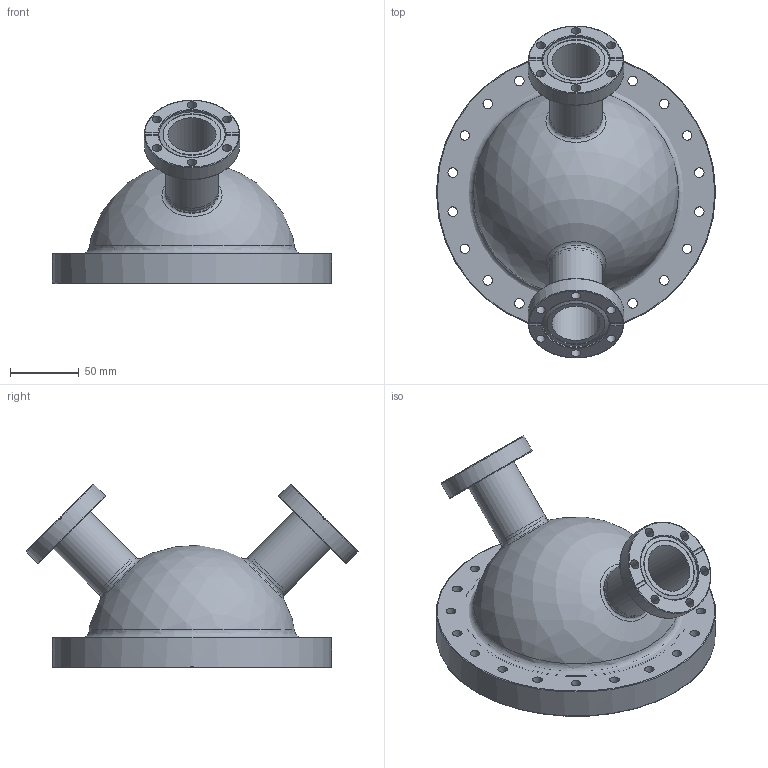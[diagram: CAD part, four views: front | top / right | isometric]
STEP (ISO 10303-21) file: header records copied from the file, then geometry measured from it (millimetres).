
FILE_DESCRIPTION(/* description */ ('STEP AP203'),/* implementation_level */ '2;1');
FILE_NAME(/* name */ 'Top Part Fusor Chamber.step',/* time_stamp */ '2024-11-04T15:29:27-06:00',/* author */ (''),/* organization */ (''),/* preprocessor_version */ 'ST-DEVELOPER v20',/* originating_system */ 'Autodesk Translation Framework v13.20.0.188',/* authorisation */ '');
FILE_SCHEMA (('AUTOMOTIVE_DESIGN { 1 0 10303 214 3 1 1 }'));
Length unit declared in the file: inch
Products named in the file (1): P102207
Bounding box: 202.39 x 240.76 x 133.22 mm (x, y, z)
Volume: 531963.4 mm3; surface area: 203208.6 mm2
Topology: 7 solids, 7 shells, 156 faces, 377 edges, 211 vertices
Faces by surface type: cylinder 71, sphere 26, plane 20, torus 18, bspline 12, cone 9
Full cylindrical faces by diameter (mm): 6.731 x12, 6.909 x20, 34.844 x1, 34.849 x1, 34.925 x2, 38.1 x4, 41.91 x2, 48.311 x2, 69.342 x2, 146.05 x1, 148.648 x1, 152.4 x1, 163.918 x1, 165.049 x1, 171.45 x1, 202.387 x1
Entity records: 5679 total; most frequent: CARTESIAN_POINT 1936, DIRECTION 836, ORIENTED_EDGE 704, AXIS2_PLACEMENT_3D 375, EDGE_CURVE 352, EDGE_LOOP 237, CIRCLE 230, VERTEX_POINT 211
